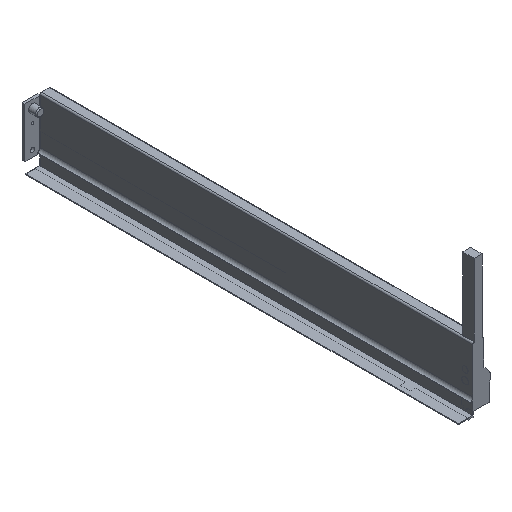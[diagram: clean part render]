
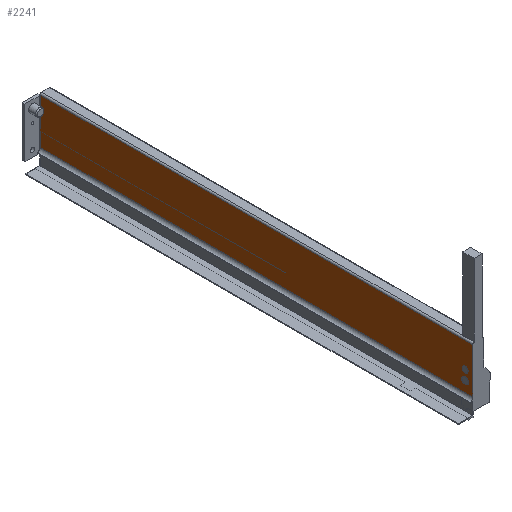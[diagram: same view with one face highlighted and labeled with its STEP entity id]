
A CAD part, isometric view. The second image highlights one B-rep face of the part: STEP entity #2241.
In plain terms, the highlighted planar face has unit normal (-1, 0, 0).
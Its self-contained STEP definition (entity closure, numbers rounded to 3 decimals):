
#90 = EDGE_CURVE ( 'NONE', #1997, #1753, #504, .T. ) ;
#96 = AXIS2_PLACEMENT_3D ( 'NONE', #1253, #1248, #1111 ) ;
#112 = AXIS2_PLACEMENT_3D ( 'NONE', #1330, #1319, #1222 ) ;
#164 = EDGE_CURVE ( 'NONE', #1753, #1793, #1472, .T. ) ;
#191 = AXIS2_PLACEMENT_3D ( 'NONE', #2081, #1786, #1620 ) ;
#214 = EDGE_CURVE ( 'NONE', #2427, #2497, #1427, .T. ) ;
#261 = EDGE_CURVE ( 'NONE', #2120, #1793, #2818, .T. ) ;
#291 = AXIS2_PLACEMENT_3D ( 'NONE', #1693, #1804, #1791 ) ;
#330 = AXIS2_PLACEMENT_3D ( 'NONE', #1000, #1185, #1191 ) ;
#361 = EDGE_CURVE ( 'NONE', #2497, #2427, #2562, .T. ) ;
#369 = EDGE_CURVE ( 'NONE', #1997, #2120, #2850, .T. ) ;
#426 = EDGE_CURVE ( 'NONE', #2494, #2432, #2791, .T. ) ;
#459 = EDGE_CURVE ( 'NONE', #2432, #2494, #2768, .T. ) ;
#498 = EDGE_LOOP ( 'NONE', ( #1605, #1606 ) ) ;
#504 = LINE ( 'NONE', #1924, #2255 ) ;
#646 = EDGE_LOOP ( 'NONE', ( #1601, #1602, #1603, #1604 ) ) ;
#649 = EDGE_LOOP ( 'NONE', ( #1607, #1608 ) ) ;
#789 = CARTESIAN_POINT ( 'NONE',  ( -21.5, 0., 5.395 ) ) ;
#792 = CARTESIAN_POINT ( 'NONE',  ( -21.5, 0., 68. ) ) ;
#822 = CARTESIAN_POINT ( 'NONE',  ( -21.5, 597., 5.395 ) ) ;
#882 = CARTESIAN_POINT ( 'NONE',  ( -21.5, 597., 68. ) ) ;
#1000 = CARTESIAN_POINT ( 'NONE',  ( -21.5, 597., 68. ) ) ;
#1111 = DIRECTION ( 'NONE',  ( 0., 0., -1. ) ) ;
#1127 = CARTESIAN_POINT ( 'NONE',  ( -21.5, 10.4, 24.6 ) ) ;
#1157 = CARTESIAN_POINT ( 'NONE',  ( -21.5, 10.4, 15.4 ) ) ;
#1185 = DIRECTION ( 'NONE',  ( -1., 0., 0. ) ) ;
#1190 = PLANE ( 'NONE',  #330 ) ;
#1191 = DIRECTION ( 'NONE',  ( 0., 0., -1. ) ) ;
#1222 = DIRECTION ( 'NONE',  ( 0., 0., -1. ) ) ;
#1234 = CARTESIAN_POINT ( 'NONE',  ( -21.5, 10.4, 28.9 ) ) ;
#1248 = DIRECTION ( 'NONE',  ( 1., 0., 0. ) ) ;
#1253 = CARTESIAN_POINT ( 'NONE',  ( -21.5, 10.4, 20. ) ) ;
#1270 = CARTESIAN_POINT ( 'NONE',  ( -21.5, 10.4, 37.1 ) ) ;
#1319 = DIRECTION ( 'NONE',  ( 1., 0., 0. ) ) ;
#1330 = CARTESIAN_POINT ( 'NONE',  ( -21.5, 10.4, 20. ) ) ;
#1427 = CIRCLE ( 'NONE', #191, 4.1 ) ;
#1471 = VECTOR ( 'NONE', #1697, 1000. ) ;
#1472 = LINE ( 'NONE', #2125, #1471 ) ;
#1601 = ORIENTED_EDGE ( 'NONE', *, *, #90, .F. ) ;
#1602 = ORIENTED_EDGE ( 'NONE', *, *, #369, .T. ) ;
#1603 = ORIENTED_EDGE ( 'NONE', *, *, #261, .T. ) ;
#1604 = ORIENTED_EDGE ( 'NONE', *, *, #164, .F. ) ;
#1605 = ORIENTED_EDGE ( 'NONE', *, *, #214, .T. ) ;
#1606 = ORIENTED_EDGE ( 'NONE', *, *, #361, .T. ) ;
#1607 = ORIENTED_EDGE ( 'NONE', *, *, #426, .T. ) ;
#1608 = ORIENTED_EDGE ( 'NONE', *, *, #459, .T. ) ;
#1620 = DIRECTION ( 'NONE',  ( 0., 0., -1. ) ) ;
#1689 = CARTESIAN_POINT ( 'NONE',  ( -21.5, 597., 5.395 ) ) ;
#1693 = CARTESIAN_POINT ( 'NONE',  ( -21.5, 10.4, 33. ) ) ;
#1697 = DIRECTION ( 'NONE',  ( 0., 0., -1. ) ) ;
#1744 = CARTESIAN_POINT ( 'NONE',  ( -21.5, 597., 5.395 ) ) ;
#1753 = VERTEX_POINT ( 'NONE', #792 ) ;
#1786 = DIRECTION ( 'NONE',  ( 1., 0., 0. ) ) ;
#1791 = DIRECTION ( 'NONE',  ( 0., 0., -1. ) ) ;
#1793 = VERTEX_POINT ( 'NONE', #789 ) ;
#1799 = DIRECTION ( 'NONE',  ( 0., 0., -1. ) ) ;
#1804 = DIRECTION ( 'NONE',  ( 1., 0., 0. ) ) ;
#1879 = DIRECTION ( 'NONE',  ( 0., -1., 0. ) ) ;
#1924 = CARTESIAN_POINT ( 'NONE',  ( -21.5, 597., 68. ) ) ;
#1997 = VERTEX_POINT ( 'NONE', #882 ) ;
#2081 = CARTESIAN_POINT ( 'NONE',  ( -21.5, 10.4, 33. ) ) ;
#2120 = VERTEX_POINT ( 'NONE', #822 ) ;
#2125 = CARTESIAN_POINT ( 'NONE',  ( -21.5, 0., 68. ) ) ;
#2151 = DIRECTION ( 'NONE',  ( 0., -1., 0. ) ) ;
#2241 = ADVANCED_FACE ( 'NONE', ( #2777, #2598, #2914 ), #1190, .T. ) ;
#2255 = VECTOR ( 'NONE', #2151, 1000. ) ;
#2427 = VERTEX_POINT ( 'NONE', #1234 ) ;
#2432 = VERTEX_POINT ( 'NONE', #1127 ) ;
#2494 = VERTEX_POINT ( 'NONE', #1157 ) ;
#2497 = VERTEX_POINT ( 'NONE', #1270 ) ;
#2562 = CIRCLE ( 'NONE', #291, 4.1 ) ;
#2598 = FACE_BOUND ( 'NONE', #498, .T. ) ;
#2692 = VECTOR ( 'NONE', #1879, 1000. ) ;
#2722 = VECTOR ( 'NONE', #1799, 1000. ) ;
#2768 = CIRCLE ( 'NONE', #112, 4.6 ) ;
#2777 = FACE_OUTER_BOUND ( 'NONE', #646, .T. ) ;
#2791 = CIRCLE ( 'NONE', #96, 4.6 ) ;
#2818 = LINE ( 'NONE', #1689, #2692 ) ;
#2850 = LINE ( 'NONE', #1744, #2722 ) ;
#2914 = FACE_BOUND ( 'NONE', #649, .T. ) ;
